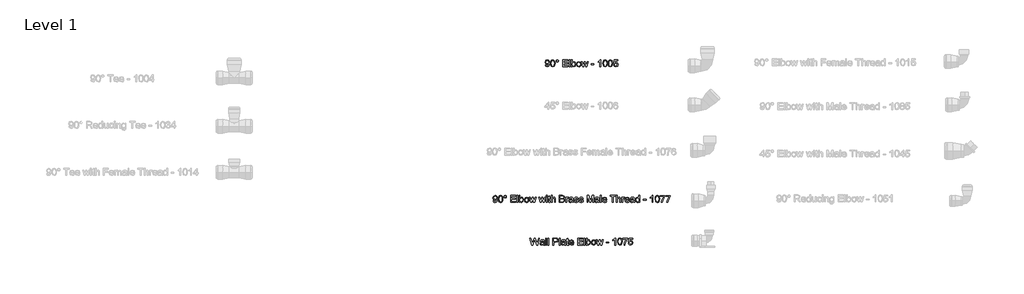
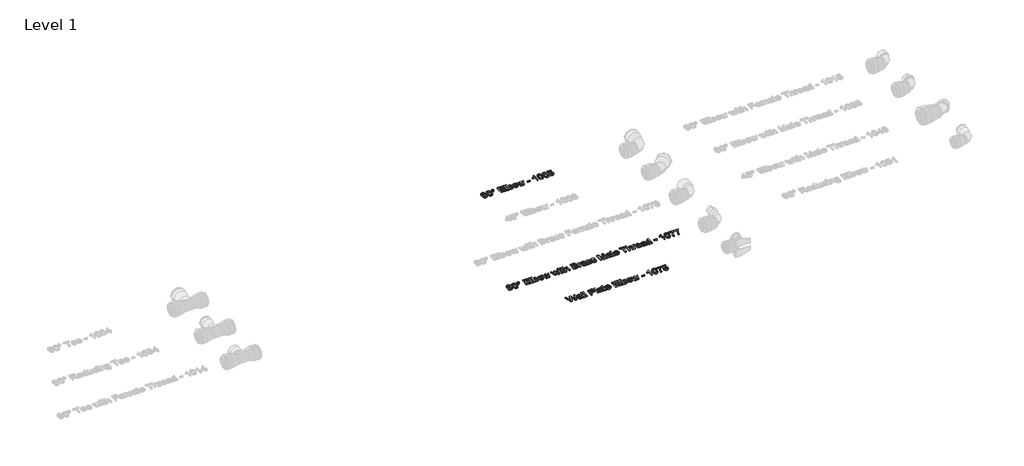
# One storey, part 5 of 13: 3 proxies.
"""IFC4 building model written with IfcOpenShell, lengths in millimetres."""

from ifc_helpers import new_model, si_unit, origin, origin_with_axes, place, context, project, spatial, polyline, outline, extrude, element, save

model = new_model("IFC4")

# Units and contexts
model_context = context("Model", 3, world=origin())
ifc_project = project(units=[si_unit("LENGTHUNIT", "METRE", prefix="MILLI")], contexts=[model_context])

# Site, building, storey
site = spatial("IfcSite", under=ifc_project)
building = spatial("IfcBuilding", under=site)
storey = spatial("IfcBuildingStorey", under=building, Name="Level 1", Elevation=0.0)

# Proxies
placement = place(None, origin())
element("IfcBuildingElementProxy", 1, Name="30 mm Arial", ObjectType="30 mm Arial", at=placement, inside=storey, context=model_context, shape_type="SweptSolid", body=[
    extrude(outline(polyline([(11959.0270244, 4338.3487189), (11962.7193321, 4338.8102573), (11964.377986, 4335.2874208), (11967.5222167, 4334.1948727), (11970.5113994, 4334.8979977), (11972.5378417, 4336.7766035), (11973.7457744, 4339.9857381), (11974.2794283, 4344.269392), (11971.3046686, 4342.1924689), (11967.2553898, 4341.1179496), (11961.0859186, 4343.7429496), (11958.565486, 4350.658815), (11961.2085148, 4357.7982381), (11967.8323129, 4360.502565), (11973.0931302, 4358.9592958), (11976.7133225, 4354.5602573), (11977.9501013, 4346.2958343), (11976.7169283, 4337.3282862), (11973.049861, 4332.2477573), (11967.3491398, 4330.502565), (11961.673659, 4332.5614593), (11959.0270244, 4338.3487189)]), holes=[polyline([(11974.2577936, 4350.7453535), (11972.6640436, 4355.1732381), (11968.4308706, 4356.8102573), (11963.9885629, 4355.0470362), (11962.2577936, 4350.4785266), (11963.8948129, 4346.3859785), (11968.329909, 4344.8102573), (11972.5883225, 4346.3859785), (11974.2577936, 4350.7453535)])]), origin_with_axes(), (0.0, 0.0, 1.0), 5.0),
    extrude(outline(polyline([(11981.1808706, 4345.4953535), (11982.2662071, 4353.9941516), (11985.4897648, 4358.894392), (11990.8731783, 4360.502565), (11995.1856783, 4359.550642), (11998.1640436, 4356.8066516), (11999.8948129, 4352.4364593), (12000.565486, 4345.4953535), (11999.4909667, 4337.0326131), (11996.2782263, 4332.1215554), (11990.8731783, 4330.502565), (11984.1231783, 4333.315065), (11981.1808706, 4345.4953535)]), holes=[polyline([(11984.8731783, 4345.502565), (11986.6039475, 4336.3330939), (11990.8731783, 4334.1948727), (11995.142409, 4336.3403054), (11996.8731783, 4345.502565), (11995.2001013, 4354.5674689), (11990.829909, 4356.8102573), (11986.6616398, 4354.8342958), (11984.8731783, 4345.502565)])]), origin_with_axes(), (0.0, 0.0, 1.0), 5.0),
    extrude(outline(polyline([(12004.7193321, 4355.4328535), (12006.345534, 4359.3487189), (12010.2505821, 4360.9641035), (12014.1808706, 4359.3487189), (12015.7962552, 4355.4328535), (12014.1700533, 4351.5133823), (12010.2505821, 4349.8871804), (12006.345534, 4351.502565), (12004.7193321, 4355.4328535)]), holes=[polyline([(12007.0270244, 4355.425642), (12007.9753417, 4353.1395843), (12010.2650052, 4352.1948727), (12012.5402456, 4353.1395843), (12013.4885629, 4355.425642), (12012.5402456, 4357.7116996), (12010.2650052, 4358.6564112), (12007.9753417, 4357.7116996), (12007.0270244, 4355.425642)])]), origin_with_axes(), (0.0, 0.0, 1.0), 5.0),
    extrude(outline(polyline([(12033.3347167, 4330.9641035), (12033.3347167, 4360.502565), (12054.565486, 4360.502565), (12054.565486, 4356.8102573), (12037.0270244, 4356.8102573), (12037.0270244, 4348.0410266), (12053.642409, 4348.0410266), (12053.642409, 4344.3487189), (12037.0270244, 4344.3487189), (12037.0270244, 4334.6564112), (12055.0270244, 4334.6564112), (12055.0270244, 4330.9641035), (12033.3347167, 4330.9641035)])), origin_with_axes(), (0.0, 0.0, 1.0), 5.0),
    extrude(outline(polyline([(12060.1039475, 4330.9641035), (12060.1039475, 4360.502565), (12063.7962552, 4360.502565), (12063.7962552, 4330.9641035), (12060.1039475, 4330.9641035)])), origin_with_axes(), (0.0, 0.0, 1.0), 5.0),
    extrude(outline(polyline([(12073.0270244, 4330.9641035), (12069.3347167, 4330.9641035), (12069.3347167, 4360.502565), (12073.0270244, 4360.502565), (12073.0270244, 4349.5482381), (12078.8251013, 4353.1179496), (12082.5246206, 4352.3138631), (12085.3948129, 4350.0530458), (12087.158034, 4346.5374208), (12087.7962552, 4342.1347766), (12085.1532263, 4333.5386227), (12078.8034667, 4330.502565), (12073.0270244, 4334.4184304), (12073.0270244, 4330.9641035)]), holes=[polyline([(12073.0270244, 4341.9616996), (12074.0366398, 4336.7982381), (12078.486159, 4334.1948727), (12082.4380821, 4336.113142), (12084.1039475, 4341.831892), (12082.5065917, 4347.5722766), (12078.6448129, 4349.425642), (12074.6928898, 4347.5073727), (12073.0270244, 4341.9616996)])]), origin_with_axes(), (0.0, 0.0, 1.0), 5.0),
    extrude(outline(polyline([(12091.0270244, 4341.8102573), (12094.221736, 4350.7165073), (12100.7265436, 4353.1179496), (12107.7037071, 4350.1936708), (12110.4116398, 4342.113142), (12109.2145244, 4335.5434304), (12105.7277456, 4331.8258823), (12100.7265436, 4330.502565), (12093.706111, 4333.4160266), (12091.0270244, 4341.8102573)]), holes=[polyline([(12094.7193321, 4341.8174689), (12096.4284667, 4336.0951131), (12100.7265436, 4334.1948727), (12105.0101975, 4336.1059304), (12106.7193321, 4341.9328535), (12104.9993802, 4347.5254016), (12100.7265436, 4349.425642), (12096.4284667, 4347.5326131), (12094.7193321, 4341.8174689)])]), origin_with_axes(), (0.0, 0.0, 1.0), 5.0),
    extrude(outline(polyline([(12118.1640436, 4330.9641035), (12111.565486, 4352.6564112), (12115.4020244, 4352.6564112), (12119.1448129, 4340.0001612), (12120.2626013, 4335.4785266), (12121.1784667, 4339.8342958), (12124.1568321, 4352.6564112), (12128.5558706, 4352.6564112), (12131.5198129, 4339.8703535), (12132.3347167, 4335.925642), (12133.502986, 4340.0866996), (12137.252986, 4352.6564112), (12141.1039475, 4352.6564112), (12134.454909, 4330.9641035), (12129.9909667, 4330.9641035), (12127.1568321, 4343.6852573), (12126.3347167, 4347.6516035), (12122.6784667, 4330.9641035), (12118.1640436, 4330.9641035)])), origin_with_axes(), (0.0, 0.0, 1.0), 5.0),
    extrude(outline(polyline([(12158.7794283, 4330.9641035), (12152.1808706, 4352.6564112), (12156.017409, 4352.6564112), (12159.7601975, 4340.0001612), (12160.877986, 4335.4785266), (12161.7938513, 4339.8342958), (12164.7722167, 4352.6564112), (12169.1712552, 4352.6564112), (12172.1351975, 4339.8703535), (12172.9501013, 4335.925642), (12174.1183706, 4340.0866996), (12177.8683706, 4352.6564112), (12181.7193321, 4352.6564112), (12175.0702936, 4330.9641035), (12170.6063513, 4330.9641035), (12167.7722167, 4343.6852573), (12166.9501013, 4347.6516035), (12163.2938513, 4330.9641035), (12158.7794283, 4330.9641035)])), origin_with_axes(), (0.0, 0.0, 1.0), 5.0),
    extrude(outline(polyline([(12184.2577936, 4356.8102573), (12184.2577936, 4360.502565), (12187.9501013, 4360.502565), (12187.9501013, 4356.8102573), (12184.2577936, 4356.8102573)])), origin_with_axes(), (0.0, 0.0, 1.0), 5.0),
    extrude(outline(polyline([(12184.2577936, 4330.9641035), (12184.2577936, 4352.6564112), (12187.9501013, 4352.6564112), (12187.9501013, 4330.9641035), (12184.2577936, 4330.9641035)])), origin_with_axes(), (0.0, 0.0, 1.0), 5.0),
    extrude(outline(polyline([(12201.3347167, 4334.0434304), (12201.7962552, 4330.8559304), (12199.034236, 4330.502565), (12195.940486, 4331.1155458), (12194.3972167, 4332.7237189), (12193.9501013, 4336.9136227), (12193.9501013, 4348.9641035), (12191.1808706, 4348.9641035), (12191.1808706, 4352.6564112), (12193.9501013, 4352.6564112), (12193.9501013, 4357.9280458), (12197.642409, 4360.0987189), (12197.642409, 4352.6564112), (12201.3347167, 4352.6564112), (12201.3347167, 4348.9641035), (12197.642409, 4348.9641035), (12197.642409, 4337.0217958), (12197.8371206, 4335.1179496), (12201.3347167, 4334.0434304)])), origin_with_axes(), (0.0, 0.0, 1.0), 5.0),
    extrude(outline(polyline([(12205.0270244, 4330.9641035), (12205.0270244, 4360.502565), (12208.7193321, 4360.502565), (12208.7193321, 4349.6419881), (12215.1448129, 4353.1179496), (12219.2914475, 4352.1696323), (12221.8082744, 4349.5482381), (12222.565486, 4344.6948727), (12222.565486, 4330.9641035), (12218.8731783, 4330.9641035), (12218.8731783, 4344.3126612), (12217.6976975, 4348.206892), (12214.3659667, 4349.425642), (12211.3407263, 4348.6035266), (12209.3214956, 4346.3751612), (12208.7193321, 4342.488142), (12208.7193321, 4330.9641035), (12205.0270244, 4330.9641035)])), origin_with_axes(), (0.0, 0.0, 1.0), 5.0),
    extrude(outline(polyline([(12239.642409, 4330.9641035), (12239.642409, 4360.502565), (12250.9140436, 4360.502565), (12256.4344763, 4359.6335746), (12259.6940917, 4356.9616996), (12260.8731783, 4353.1828535), (12259.8815917, 4349.7321323), (12256.8851975, 4347.1179496), (12260.5234186, 4344.363142), (12261.7962552, 4339.769392), (12260.9272648, 4335.79944), (12258.7746206, 4332.972517), (12255.5618802, 4331.472517), (12250.8275052, 4330.9641035), (12239.642409, 4330.9641035)]), holes=[polyline([(12243.3347167, 4348.502565), (12250.0775052, 4348.502565), (12254.0150052, 4348.8198727), (12256.3839956, 4350.1864593), (12257.1808706, 4352.5915073), (12256.4380821, 4355.0001612), (12254.3106783, 4356.42444), (12249.565486, 4356.8102573), (12243.3347167, 4356.8102573), (12243.3347167, 4348.502565)]), polyline([(12243.3347167, 4334.6564112), (12250.9068321, 4334.6564112), (12253.6472167, 4334.800642), (12255.9657263, 4335.6047285), (12257.501784, 4337.2453535), (12258.1039475, 4339.7333343), (12257.3972167, 4342.6035266), (12255.1075533, 4344.316267), (12250.5462552, 4344.8102573), (12243.3347167, 4344.8102573), (12243.3347167, 4334.6564112)])]), origin_with_axes(), (0.0, 0.0, 1.0), 5.0),
    extrude(outline(polyline([(12266.4116398, 4330.9641035), (12266.4116398, 4352.6564112), (12269.642409, 4352.6564112), (12269.642409, 4349.4472766), (12271.9356783, 4352.4040073), (12274.2433706, 4353.1179496), (12277.9501013, 4351.9785266), (12276.7169283, 4348.6684304), (12274.1207744, 4349.425642), (12272.033034, 4348.6972766), (12270.7025052, 4346.6780458), (12270.1039475, 4342.3655458), (12270.1039475, 4330.9641035), (12266.4116398, 4330.9641035)])), origin_with_axes(), (0.0, 0.0, 1.0), 5.0),
    extrude(outline(polyline([(12294.1039475, 4333.7333343), (12290.5234186, 4331.2309304), (12286.5678898, 4330.502565), (12281.206111, 4332.2549689), (12279.3347167, 4336.7333343), (12280.0414475, 4339.6540073), (12281.8984186, 4341.7741996), (12284.4837552, 4342.9857381), (12287.6784667, 4343.5410266), (12294.0823129, 4344.8102573), (12293.0871206, 4348.3583343), (12289.0053898, 4349.425642), (12285.2698129, 4348.7153054), (12283.4885629, 4346.1948727), (12279.7962552, 4346.6564112), (12281.393611, 4350.2621804), (12284.6099571, 4352.3751612), (12289.4813513, 4353.1179496), (12293.956111, 4352.4616996), (12296.4837552, 4350.8138631), (12297.6159667, 4348.3078535), (12297.7962552, 4345.0770843), (12297.7962552, 4340.4833343), (12297.9837552, 4334.0686708), (12298.7193321, 4330.9641035), (12295.0270244, 4330.9641035), (12294.1039475, 4333.7333343)]), holes=[polyline([(12294.0931302, 4340.5951131), (12288.1472167, 4339.9857381), (12284.970534, 4339.3871804), (12283.5318321, 4338.4136227), (12284.126784, 4334.9953535), (12287.3539475, 4334.1948727), (12291.0895244, 4335.0782862), (12293.4981783, 4337.2165073), (12294.0931302, 4340.5951131)])]), origin_with_axes(), (0.0, 0.0, 1.0), 5.0),
    extrude(outline(polyline([(12301.4885629, 4337.425642), (12305.1808706, 4337.8871804), (12306.8900052, 4335.1467958), (12310.8058706, 4334.1948727), (12314.5702936, 4335.0674689), (12315.7962552, 4337.1155458), (12314.5630821, 4338.7741996), (12310.7626013, 4339.8270843), (12305.2025052, 4341.6335746), (12302.7758225, 4343.7429496), (12301.9501013, 4346.721315), (12302.6135629, 4349.472517), (12304.423659, 4351.5746804), (12306.7710148, 4352.6672285), (12309.9476975, 4353.1179496), (12314.440486, 4352.39319), (12317.2962552, 4350.4316516), (12318.565486, 4347.1179496), (12314.8731783, 4346.6564112), (12313.4849571, 4348.6936708), (12310.236159, 4349.425642), (12306.7025052, 4348.7261227), (12305.642409, 4347.096315), (12307.4597167, 4345.206892), (12310.6400052, 4344.4208343), (12316.0594763, 4342.6828535), (12318.5763033, 4340.7141035), (12319.4885629, 4337.5049689), (12318.4176494, 4333.971315), (12315.3275052, 4331.4076131), (12310.7553898, 4330.502565), (12304.315486, 4332.2477573), (12301.4885629, 4337.425642)])), origin_with_axes(), (0.0, 0.0, 1.0), 5.0),
    extrude(outline(polyline([(12322.2577936, 4337.425642), (12325.9501013, 4337.8871804), (12327.659236, 4335.1467958), (12331.5751013, 4334.1948727), (12335.3395244, 4335.0674689), (12336.565486, 4337.1155458), (12335.3323129, 4338.7741996), (12331.5318321, 4339.8270843), (12325.971736, 4341.6335746), (12323.5450533, 4343.7429496), (12322.7193321, 4346.721315), (12323.3827936, 4349.472517), (12325.1928898, 4351.5746804), (12327.5402456, 4352.6672285), (12330.7169283, 4353.1179496), (12335.2097167, 4352.39319), (12338.065486, 4350.4316516), (12339.3347167, 4347.1179496), (12335.642409, 4346.6564112), (12334.2541879, 4348.6936708), (12331.0053898, 4349.425642), (12327.471736, 4348.7261227), (12326.4116398, 4347.096315), (12328.2289475, 4345.206892), (12331.409236, 4344.4208343), (12336.8287071, 4342.6828535), (12339.345534, 4340.7141035), (12340.2577936, 4337.5049689), (12339.1868802, 4333.971315), (12336.096736, 4331.4076131), (12331.5246206, 4330.502565), (12325.0847167, 4332.2477573), (12322.2577936, 4337.425642)])), origin_with_axes(), (0.0, 0.0, 1.0), 5.0),
    extrude(outline(polyline([(12356.4116398, 4330.9641035), (12356.4116398, 4360.502565), (12362.7650052, 4360.502565), (12368.8082744, 4339.6828535), (12370.0270244, 4335.3342958), (12371.346736, 4340.0434304), (12377.2890436, 4360.502565), (12383.642409, 4360.502565), (12383.642409, 4330.9641035), (12379.9501013, 4330.9641035), (12379.9501013, 4356.8102573), (12372.5294283, 4330.9641035), (12367.5246206, 4330.9641035), (12360.1039475, 4356.8102573), (12360.1039475, 4330.9641035), (12356.4116398, 4330.9641035)])), origin_with_axes(), (0.0, 0.0, 1.0), 5.0),
    extrude(outline(polyline([(12403.4885629, 4333.7333343), (12399.908034, 4331.2309304), (12395.9525052, 4330.502565), (12390.5907263, 4332.2549689), (12388.7193321, 4336.7333343), (12389.4260629, 4339.6540073), (12391.283034, 4341.7741996), (12393.8683706, 4342.9857381), (12397.0630821, 4343.5410266), (12403.4669283, 4344.8102573), (12402.471736, 4348.3583343), (12398.3900052, 4349.425642), (12394.6544283, 4348.7153054), (12392.8731783, 4346.1948727), (12389.1808706, 4346.6564112), (12390.7782263, 4350.2621804), (12393.9945725, 4352.3751612), (12398.8659667, 4353.1179496), (12403.3407263, 4352.4616996), (12405.8683706, 4350.8138631), (12407.0005821, 4348.3078535), (12407.1808706, 4345.0770843), (12407.1808706, 4340.4833343), (12407.3683706, 4334.0686708), (12408.1039475, 4330.9641035), (12404.4116398, 4330.9641035), (12403.4885629, 4333.7333343)]), holes=[polyline([(12403.4777456, 4340.5951131), (12397.5318321, 4339.9857381), (12394.3551494, 4339.3871804), (12392.9164475, 4338.4136227), (12393.5113994, 4334.9953535), (12396.7385629, 4334.1948727), (12400.4741398, 4335.0782862), (12402.8827936, 4337.2165073), (12403.4777456, 4340.5951131)])]), origin_with_axes(), (0.0, 0.0, 1.0), 5.0),
    extrude(outline(polyline([(12412.2577936, 4330.9641035), (12412.2577936, 4360.502565), (12415.9501013, 4360.502565), (12415.9501013, 4330.9641035), (12412.2577936, 4330.9641035)])), origin_with_axes(), (0.0, 0.0, 1.0), 5.0),
    extrude(outline(polyline([(12436.6760629, 4337.425642), (12440.2962552, 4336.9641035), (12436.9104379, 4332.1972766), (12430.6039475, 4330.502565), (12422.9380821, 4333.4268439), (12420.1039475, 4341.6299689), (12422.9669283, 4350.1035266), (12430.3948129, 4353.1179496), (12437.6099571, 4350.1107381), (12440.4116398, 4341.6516035), (12423.7962552, 4340.6564112), (12425.9200533, 4335.8607381), (12430.6760629, 4334.1948727), (12434.2962552, 4334.9665073), (12436.6760629, 4337.425642)]), holes=[polyline([(12423.7962552, 4344.3487189), (12436.7193321, 4344.3487189), (12435.2409667, 4347.6948727), (12430.3803898, 4349.425642), (12425.8335148, 4348.0446323), (12423.7962552, 4344.3487189)])]), origin_with_axes(), (0.0, 0.0, 1.0), 5.0),
    extrude(outline(polyline([(12463.4885629, 4330.9641035), (12463.4885629, 4356.8102573), (12453.7962552, 4356.8102573), (12453.7962552, 4360.502565), (12476.8731783, 4360.502565), (12476.8731783, 4356.8102573), (12467.1808706, 4356.8102573), (12467.1808706, 4330.9641035), (12463.4885629, 4330.9641035)])), origin_with_axes(), (0.0, 0.0, 1.0), 5.0),
    extrude(outline(polyline([(12480.565486, 4330.9641035), (12480.565486, 4360.502565), (12484.2577936, 4360.502565), (12484.2577936, 4349.6419881), (12490.6832744, 4353.1179496), (12494.829909, 4352.1696323), (12497.346736, 4349.5482381), (12498.1039475, 4344.6948727), (12498.1039475, 4330.9641035), (12494.4116398, 4330.9641035), (12494.4116398, 4344.3126612), (12493.236159, 4348.206892), (12489.9044283, 4349.425642), (12486.8791879, 4348.6035266), (12484.8599571, 4346.3751612), (12484.2577936, 4342.488142), (12484.2577936, 4330.9641035), (12480.565486, 4330.9641035)])), origin_with_axes(), (0.0, 0.0, 1.0), 5.0),
    extrude(outline(polyline([(12503.1808706, 4330.9641035), (12503.1808706, 4352.6564112), (12506.4116398, 4352.6564112), (12506.4116398, 4349.4472766), (12508.704909, 4352.4040073), (12511.0126013, 4353.1179496), (12514.7193321, 4351.9785266), (12513.486159, 4348.6684304), (12510.8900052, 4349.425642), (12508.8022648, 4348.6972766), (12507.471736, 4346.6780458), (12506.8731783, 4342.3655458), (12506.8731783, 4330.9641035), (12503.1808706, 4330.9641035)])), origin_with_axes(), (0.0, 0.0, 1.0), 5.0),
    extrude(outline(polyline([(12532.2145244, 4337.425642), (12535.8347167, 4336.9641035), (12532.4488994, 4332.1972766), (12526.142409, 4330.502565), (12518.4765436, 4333.4268439), (12515.642409, 4341.6299689), (12518.5053898, 4350.1035266), (12525.9332744, 4353.1179496), (12533.1484186, 4350.1107381), (12535.9501013, 4341.6516035), (12519.3347167, 4340.6564112), (12521.4585148, 4335.8607381), (12526.2145244, 4334.1948727), (12529.8347167, 4334.9665073), (12532.2145244, 4337.425642)]), holes=[polyline([(12519.3347167, 4344.3487189), (12532.2577936, 4344.3487189), (12530.7794283, 4347.6948727), (12525.9188513, 4349.425642), (12521.3719763, 4348.0446323), (12519.3347167, 4344.3487189)])]), origin_with_axes(), (0.0, 0.0, 1.0), 5.0),
    extrude(outline(polyline([(12553.4885629, 4333.7333343), (12549.908034, 4331.2309304), (12545.9525052, 4330.502565), (12540.5907263, 4332.2549689), (12538.7193321, 4336.7333343), (12539.4260629, 4339.6540073), (12541.283034, 4341.7741996), (12543.8683706, 4342.9857381), (12547.0630821, 4343.5410266), (12553.4669283, 4344.8102573), (12552.471736, 4348.3583343), (12548.3900052, 4349.425642), (12544.6544283, 4348.7153054), (12542.8731783, 4346.1948727), (12539.1808706, 4346.6564112), (12540.7782263, 4350.2621804), (12543.9945725, 4352.3751612), (12548.8659667, 4353.1179496), (12553.3407263, 4352.4616996), (12555.8683706, 4350.8138631), (12557.0005821, 4348.3078535), (12557.1808706, 4345.0770843), (12557.1808706, 4340.4833343), (12557.3683706, 4334.0686708), (12558.1039475, 4330.9641035), (12554.4116398, 4330.9641035), (12553.4885629, 4333.7333343)]), holes=[polyline([(12553.4777456, 4340.5951131), (12547.5318321, 4339.9857381), (12544.3551494, 4339.3871804), (12542.9164475, 4338.4136227), (12543.5113994, 4334.9953535), (12546.7385629, 4334.1948727), (12550.4741398, 4335.0782862), (12552.8827936, 4337.2165073), (12553.4777456, 4340.5951131)])]), origin_with_axes(), (0.0, 0.0, 1.0), 5.0),
    extrude(outline(polyline([(12575.642409, 4330.9641035), (12575.642409, 4334.4472766), (12569.8226975, 4330.502565), (12565.2505821, 4331.9304496), (12562.0198129, 4335.9148246), (12560.8731783, 4341.7886227), (12561.9296686, 4347.6660266), (12565.095534, 4351.7116996), (12569.8082744, 4353.1179496), (12573.2121206, 4352.11194), (12575.642409, 4349.4977573), (12575.642409, 4360.502565), (12579.3347167, 4360.502565), (12579.3347167, 4330.9641035), (12575.642409, 4330.9641035)]), holes=[polyline([(12564.565486, 4341.8030458), (12566.2313513, 4336.0879016), (12570.1616398, 4334.1948727), (12574.0450533, 4336.0013631), (12575.642409, 4341.5217958), (12574.0162071, 4347.5145843), (12570.0101975, 4349.425642), (12566.1231783, 4347.5903054), (12564.565486, 4341.8030458)])]), origin_with_axes(), (0.0, 0.0, 1.0), 5.0),
    extrude(outline(polyline([(12594.565486, 4339.7333343), (12594.565486, 4343.425642), (12606.1039475, 4343.425642), (12606.1039475, 4339.7333343), (12594.565486, 4339.7333343)])), origin_with_axes(), (0.0, 0.0, 1.0), 5.0),
    extrude(outline(polyline([(12634.7193321, 4330.9641035), (12631.0270244, 4330.9641035), (12631.0270244, 4353.9833343), (12627.5294283, 4351.4917477), (12623.642409, 4349.627565), (12623.642409, 4353.1179496), (12629.0546686, 4356.5722766), (12632.3395244, 4360.502565), (12634.7193321, 4360.502565), (12634.7193321, 4330.9641035)])), origin_with_axes(), (0.0, 0.0, 1.0), 5.0),
    extrude(outline(polyline([(12643.4885629, 4345.4953535), (12644.5738994, 4353.9941516), (12647.7974571, 4358.894392), (12653.1808706, 4360.502565), (12657.4933706, 4359.550642), (12660.471736, 4356.8066516), (12662.2025052, 4352.4364593), (12662.8731783, 4345.4953535), (12661.798659, 4337.0326131), (12658.5859186, 4332.1215554), (12653.1808706, 4330.502565), (12646.4308706, 4333.315065), (12643.4885629, 4345.4953535)]), holes=[polyline([(12647.1808706, 4345.502565), (12648.9116398, 4336.3330939), (12653.1808706, 4334.1948727), (12657.4501013, 4336.3403054), (12659.1808706, 4345.502565), (12657.5077936, 4354.5674689), (12653.1376013, 4356.8102573), (12648.9693321, 4354.8342958), (12647.1808706, 4345.502565)])]), origin_with_axes(), (0.0, 0.0, 1.0), 5.0),
    extrude(outline(polyline([(12666.1039475, 4356.3487189), (12666.1039475, 4360.0410266), (12685.4885629, 4360.0410266), (12685.4885629, 4357.0554496), (12679.9897648, 4349.11194), (12675.7818321, 4338.9905458), (12674.4116398, 4330.9641035), (12670.7193321, 4330.9641035), (12672.1868802, 4339.2934304), (12676.2145244, 4348.7080939), (12681.7962552, 4356.3487189), (12666.1039475, 4356.3487189)])), origin_with_axes(), (0.0, 0.0, 1.0), 5.0),
    extrude(outline(polyline([(12688.7193321, 4356.3487189), (12688.7193321, 4360.0410266), (12708.1039475, 4360.0410266), (12708.1039475, 4357.0554496), (12702.6051494, 4349.11194), (12698.3972167, 4338.9905458), (12697.0270244, 4330.9641035), (12693.3347167, 4330.9641035), (12694.8022648, 4339.2934304), (12698.829909, 4348.7080939), (12704.4116398, 4356.3487189), (12688.7193321, 4356.3487189)])), origin_with_axes(), (0.0, 0.0, 1.0), 5.0),
])
element("IfcBuildingElementProxy", 2, Name="30 mm Arial", ObjectType="30 mm Arial", at=placement, inside=storey, context=model_context, shape_type="SweptSolid", body=[
    extrude(outline(polyline([(12179.642409, 4911.4453726), (12183.3347167, 4911.906911), (12184.9933706, 4908.3840745), (12188.1376013, 4907.2915264), (12191.126784, 4907.9946514), (12193.1532263, 4909.8732572), (12194.361159, 4913.0823918), (12194.8948129, 4917.3660456), (12191.9200533, 4915.2891226), (12187.8707744, 4914.2146033), (12181.7013033, 4916.8396033), (12179.1808706, 4923.7554687), (12181.8238994, 4930.8948918), (12188.4476975, 4933.5992187), (12193.7085148, 4932.0559495), (12197.3287071, 4927.656911), (12198.565486, 4919.3924879), (12197.3323129, 4910.4249399), (12193.6652456, 4905.344411), (12187.9645244, 4903.5992187), (12182.2890436, 4905.6581129), (12179.642409, 4911.4453726)]), holes=[polyline([(12194.8731783, 4923.8420072), (12193.2794283, 4928.2698918), (12189.0462552, 4929.906911), (12184.6039475, 4928.1436899), (12182.8731783, 4923.5751802), (12184.5101975, 4919.4826322), (12188.9452936, 4917.906911), (12193.2037071, 4919.4826322), (12194.8731783, 4923.8420072)])]), origin_with_axes(), (0.0, 0.0, 1.0), 5.0),
    extrude(outline(polyline([(12201.7962552, 4918.5920072), (12202.8815917, 4927.0908052), (12206.1051494, 4931.9910456), (12211.4885629, 4933.5992187), (12215.8010629, 4932.6472956), (12218.7794283, 4929.9033052), (12220.5101975, 4925.5331129), (12221.1808706, 4918.5920072), (12220.1063513, 4910.1292668), (12216.893611, 4905.2182091), (12211.4885629, 4903.5992187), (12204.7385629, 4906.4117187), (12201.7962552, 4918.5920072)]), holes=[polyline([(12205.4885629, 4918.5992187), (12207.2193321, 4909.4297476), (12211.4885629, 4907.2915264), (12215.7577936, 4909.4369591), (12217.4885629, 4918.5992187), (12215.815486, 4927.6641226), (12211.4452936, 4929.906911), (12207.2770244, 4927.9309495), (12205.4885629, 4918.5992187)])]), origin_with_axes(), (0.0, 0.0, 1.0), 5.0),
    extrude(outline(polyline([(12225.3347167, 4928.5295072), (12226.9609186, 4932.4453726), (12230.8659667, 4934.0607572), (12234.7962552, 4932.4453726), (12236.4116398, 4928.5295072), (12234.7854379, 4924.610036), (12230.8659667, 4922.9838341), (12226.9609186, 4924.5992187), (12225.3347167, 4928.5295072)]), holes=[polyline([(12227.642409, 4928.5222956), (12228.5907263, 4926.2362379), (12230.8803898, 4925.2915264), (12233.1556302, 4926.2362379), (12234.1039475, 4928.5222956), (12233.1556302, 4930.8083533), (12230.8803898, 4931.7530649), (12228.5907263, 4930.8083533), (12227.642409, 4928.5222956)])]), origin_with_axes(), (0.0, 0.0, 1.0), 5.0),
    extrude(outline(polyline([(12253.9501013, 4904.0607572), (12253.9501013, 4933.5992187), (12275.1808706, 4933.5992187), (12275.1808706, 4929.906911), (12257.642409, 4929.906911), (12257.642409, 4921.1376802), (12274.2577936, 4921.1376802), (12274.2577936, 4917.4453726), (12257.642409, 4917.4453726), (12257.642409, 4907.7530649), (12275.642409, 4907.7530649), (12275.642409, 4904.0607572), (12253.9501013, 4904.0607572)])), origin_with_axes(), (0.0, 0.0, 1.0), 5.0),
    extrude(outline(polyline([(12280.7193321, 4904.0607572), (12280.7193321, 4933.5992187), (12284.4116398, 4933.5992187), (12284.4116398, 4904.0607572), (12280.7193321, 4904.0607572)])), origin_with_axes(), (0.0, 0.0, 1.0), 5.0),
    extrude(outline(polyline([(12293.642409, 4904.0607572), (12289.9501013, 4904.0607572), (12289.9501013, 4933.5992187), (12293.642409, 4933.5992187), (12293.642409, 4922.6448918), (12299.440486, 4926.2146033), (12303.1400052, 4925.4105168), (12306.0101975, 4923.1496995), (12307.7734186, 4919.6340745), (12308.4116398, 4915.2314302), (12305.768611, 4906.6352764), (12299.4188513, 4903.5992187), (12293.642409, 4907.5150841), (12293.642409, 4904.0607572)]), holes=[polyline([(12293.642409, 4915.0583533), (12294.6520244, 4909.8948918), (12299.1015436, 4907.2915264), (12303.0534667, 4909.2097956), (12304.7193321, 4914.9285456), (12303.1219763, 4920.6689302), (12299.2601975, 4922.5222956), (12295.3082744, 4920.6040264), (12293.642409, 4915.0583533)])]), origin_with_axes(), (0.0, 0.0, 1.0), 5.0),
    extrude(outline(polyline([(12311.642409, 4914.906911), (12314.8371206, 4923.813161), (12321.3419283, 4926.2146033), (12328.3190917, 4923.2903245), (12331.0270244, 4915.2097956), (12329.829909, 4908.6400841), (12326.3431302, 4904.922536), (12321.3419283, 4903.5992187), (12314.3214956, 4906.5126802), (12311.642409, 4914.906911)]), holes=[polyline([(12315.3347167, 4914.9141226), (12317.0438513, 4909.1917668), (12321.3419283, 4907.2915264), (12325.6255821, 4909.2025841), (12327.3347167, 4915.0295072), (12325.6147648, 4920.6220552), (12321.3419283, 4922.5222956), (12317.0438513, 4920.6292668), (12315.3347167, 4914.9141226)])]), origin_with_axes(), (0.0, 0.0, 1.0), 5.0),
    extrude(outline(polyline([(12338.7794283, 4904.0607572), (12332.1808706, 4925.7530649), (12336.017409, 4925.7530649), (12339.7601975, 4913.0968149), (12340.877986, 4908.5751802), (12341.7938513, 4912.9309495), (12344.7722167, 4925.7530649), (12349.1712552, 4925.7530649), (12352.1351975, 4912.9670072), (12352.9501013, 4909.0222956), (12354.1183706, 4913.1833533), (12357.8683706, 4925.7530649), (12361.7193321, 4925.7530649), (12355.0702936, 4904.0607572), (12350.6063513, 4904.0607572), (12347.7722167, 4916.781911), (12346.9501013, 4920.7482572), (12343.2938513, 4904.0607572), (12338.7794283, 4904.0607572)])), origin_with_axes(), (0.0, 0.0, 1.0), 5.0),
    extrude(outline(polyline([(12373.9501013, 4912.8299879), (12373.9501013, 4916.5222956), (12385.4885629, 4916.5222956), (12385.4885629, 4912.8299879), (12373.9501013, 4912.8299879)])), origin_with_axes(), (0.0, 0.0, 1.0), 5.0),
    extrude(outline(polyline([(12414.1039475, 4904.0607572), (12410.4116398, 4904.0607572), (12410.4116398, 4927.0799879), (12406.9140436, 4924.5884014), (12403.0270244, 4922.7242187), (12403.0270244, 4926.2146033), (12408.439284, 4929.6689302), (12411.7241398, 4933.5992187), (12414.1039475, 4933.5992187), (12414.1039475, 4904.0607572)])), origin_with_axes(), (0.0, 0.0, 1.0), 5.0),
    extrude(outline(polyline([(12422.8731783, 4918.5920072), (12423.9585148, 4927.0908052), (12427.1820725, 4931.9910456), (12432.565486, 4933.5992187), (12436.877986, 4932.6472956), (12439.8563513, 4929.9033052), (12441.5871206, 4925.5331129), (12442.2577936, 4918.5920072), (12441.1832744, 4910.1292668), (12437.970534, 4905.2182091), (12432.565486, 4903.5992187), (12425.815486, 4906.4117187), (12422.8731783, 4918.5920072)]), holes=[polyline([(12426.565486, 4918.5992187), (12428.2962552, 4909.4297476), (12432.565486, 4907.2915264), (12436.8347167, 4909.4369591), (12438.565486, 4918.5992187), (12436.892409, 4927.6641226), (12432.5222167, 4929.906911), (12428.3539475, 4927.9309495), (12426.565486, 4918.5992187)])]), origin_with_axes(), (0.0, 0.0, 1.0), 5.0),
    extrude(outline(polyline([(12445.4885629, 4918.5920072), (12446.5738994, 4927.0908052), (12449.7974571, 4931.9910456), (12455.1808706, 4933.5992187), (12459.4933706, 4932.6472956), (12462.471736, 4929.9033052), (12464.2025052, 4925.5331129), (12464.8731783, 4918.5920072), (12463.798659, 4910.1292668), (12460.5859186, 4905.2182091), (12455.1808706, 4903.5992187), (12448.4308706, 4906.4117187), (12445.4885629, 4918.5920072)]), holes=[polyline([(12449.1808706, 4918.5992187), (12450.9116398, 4909.4297476), (12455.1808706, 4907.2915264), (12459.4501013, 4909.4369591), (12461.1808706, 4918.5992187), (12459.5077936, 4927.6641226), (12455.1376013, 4929.906911), (12450.9693321, 4927.9309495), (12449.1808706, 4918.5992187)])]), origin_with_axes(), (0.0, 0.0, 1.0), 5.0),
    extrude(outline(polyline([(12468.1039475, 4911.906911), (12471.7962552, 4912.3684495), (12473.6568321, 4908.5643629), (12477.5150052, 4907.2915264), (12482.1448129, 4909.0619591), (12483.7962552, 4913.7602764), (12482.2493802, 4918.1448918), (12477.5726975, 4919.7530649), (12474.331111, 4919.1112379), (12472.2577936, 4917.4453726), (12468.565486, 4917.906911), (12471.7962552, 4933.1376802), (12486.1039475, 4933.1376802), (12486.1039475, 4929.4453726), (12474.7818321, 4929.4453726), (12473.2025052, 4921.3107572), (12478.6039475, 4923.4453726), (12484.9176494, 4920.7987379), (12487.4885629, 4913.9910456), (12485.173659, 4907.1400841), (12477.5005821, 4903.5992187), (12470.9849571, 4905.8744591), (12468.1039475, 4911.906911)])), origin_with_axes(), (0.0, 0.0, 1.0), 5.0),
])
element("IfcBuildingElementProxy", 3, Name="30 mm Arial", ObjectType="30 mm Arial", at=placement, inside=storey, context=model_context, shape_type="SweptSolid", body=[
    extrude(outline(polyline([(12123.3130821, 4150.9641035), (12115.2577936, 4180.502565), (12119.065486, 4180.502565), (12123.7385629, 4161.0891035), (12125.1808706, 4155.096315), (12126.7241398, 4160.3967958), (12132.579909, 4180.502565), (12138.0678898, 4180.502565), (12142.3226975, 4165.9280458), (12145.4885629, 4155.096315), (12146.8876013, 4160.9160266), (12151.6039475, 4180.502565), (12155.4116398, 4180.502565), (12147.3491398, 4150.9641035), (12143.4044283, 4150.9641035), (12136.3226975, 4173.752565), (12135.3347167, 4176.9328535), (12134.2241398, 4173.1035266), (12127.7698129, 4150.9641035), (12123.3130821, 4150.9641035)])), origin_with_axes(), (0.0, 0.0, 1.0), 5.0),
    extrude(outline(polyline([(12172.4885629, 4153.7333343), (12168.908034, 4151.2309304), (12164.9525052, 4150.502565), (12159.5907263, 4152.2549689), (12157.7193321, 4156.7333343), (12158.4260629, 4159.6540073), (12160.283034, 4161.7741996), (12162.8683706, 4162.9857381), (12166.0630821, 4163.5410266), (12172.4669283, 4164.8102573), (12171.471736, 4168.3583343), (12167.3900052, 4169.425642), (12163.6544283, 4168.7153054), (12161.8731783, 4166.1948727), (12158.1808706, 4166.6564112), (12159.7782263, 4170.2621804), (12162.9945725, 4172.3751612), (12167.8659667, 4173.1179496), (12172.3407263, 4172.4616996), (12174.8683706, 4170.8138631), (12176.0005821, 4168.3078535), (12176.1808706, 4165.0770843), (12176.1808706, 4160.4833343), (12176.3683706, 4154.0686708), (12177.1039475, 4150.9641035), (12173.4116398, 4150.9641035), (12172.4885629, 4153.7333343)]), holes=[polyline([(12172.4777456, 4160.5951131), (12166.5318321, 4159.9857381), (12163.3551494, 4159.3871804), (12161.9164475, 4158.4136227), (12162.5113994, 4154.9953535), (12165.7385629, 4154.1948727), (12169.4741398, 4155.0782862), (12171.8827936, 4157.2165073), (12172.4777456, 4160.5951131)])]), origin_with_axes(), (0.0, 0.0, 1.0), 5.0),
    extrude(outline(polyline([(12181.2577936, 4150.9641035), (12181.2577936, 4180.502565), (12184.9501013, 4180.502565), (12184.9501013, 4150.9641035), (12181.2577936, 4150.9641035)])), origin_with_axes(), (0.0, 0.0, 1.0), 5.0),
    extrude(outline(polyline([(12190.4885629, 4150.9641035), (12190.4885629, 4180.502565), (12194.1808706, 4180.502565), (12194.1808706, 4150.9641035), (12190.4885629, 4150.9641035)])), origin_with_axes(), (0.0, 0.0, 1.0), 5.0),
    extrude(outline(polyline([(12211.7193321, 4150.9641035), (12211.7193321, 4180.502565), (12222.6664475, 4180.502565), (12227.079909, 4180.221315), (12230.6676494, 4178.8403054), (12232.9933706, 4175.9845362), (12233.8731783, 4171.956892), (12231.4969763, 4165.5746804), (12222.9188513, 4162.9641035), (12215.4116398, 4162.9641035), (12215.4116398, 4150.9641035), (12211.7193321, 4150.9641035)]), holes=[polyline([(12215.4116398, 4166.6564112), (12223.1351975, 4166.6564112), (12228.5726975, 4168.0121804), (12230.1808706, 4171.8270843), (12229.2325533, 4174.8847766), (12226.7409667, 4176.5578535), (12223.048659, 4176.8102573), (12215.4116398, 4176.8102573), (12215.4116398, 4166.6564112)])]), origin_with_axes(), (0.0, 0.0, 1.0), 5.0),
    extrude(outline(polyline([(12238.4885629, 4150.9641035), (12238.4885629, 4180.502565), (12242.1808706, 4180.502565), (12242.1808706, 4150.9641035), (12238.4885629, 4150.9641035)])), origin_with_axes(), (0.0, 0.0, 1.0), 5.0),
    extrude(outline(polyline([(12261.565486, 4153.7333343), (12257.9849571, 4151.2309304), (12254.0294283, 4150.502565), (12248.6676494, 4152.2549689), (12246.7962552, 4156.7333343), (12247.502986, 4159.6540073), (12249.3599571, 4161.7741996), (12251.9452936, 4162.9857381), (12255.1400052, 4163.5410266), (12261.5438513, 4164.8102573), (12260.548659, 4168.3583343), (12256.4669283, 4169.425642), (12252.7313513, 4168.7153054), (12250.9501013, 4166.1948727), (12247.2577936, 4166.6564112), (12248.8551494, 4170.2621804), (12252.0714956, 4172.3751612), (12256.9428898, 4173.1179496), (12261.4176494, 4172.4616996), (12263.9452936, 4170.8138631), (12265.0775052, 4168.3078535), (12265.2577936, 4165.0770843), (12265.2577936, 4160.4833343), (12265.4452936, 4154.0686708), (12266.1808706, 4150.9641035), (12262.4885629, 4150.9641035), (12261.565486, 4153.7333343)]), holes=[polyline([(12261.5546686, 4160.5951131), (12255.6087552, 4159.9857381), (12252.4320725, 4159.3871804), (12250.9933706, 4158.4136227), (12251.5883225, 4154.9953535), (12254.815486, 4154.1948727), (12258.5510629, 4155.0782862), (12260.9597167, 4157.2165073), (12261.5546686, 4160.5951131)])]), origin_with_axes(), (0.0, 0.0, 1.0), 5.0),
    extrude(outline(polyline([(12278.1808706, 4154.0434304), (12278.642409, 4150.8559304), (12275.8803898, 4150.502565), (12272.7866398, 4151.1155458), (12271.2433706, 4152.7237189), (12270.7962552, 4156.9136227), (12270.7962552, 4168.9641035), (12268.0270244, 4168.9641035), (12268.0270244, 4172.6564112), (12270.7962552, 4172.6564112), (12270.7962552, 4177.9280458), (12274.4885629, 4180.0987189), (12274.4885629, 4172.6564112), (12278.1808706, 4172.6564112), (12278.1808706, 4168.9641035), (12274.4885629, 4168.9641035), (12274.4885629, 4157.0217958), (12274.6832744, 4155.1179496), (12278.1808706, 4154.0434304)])), origin_with_axes(), (0.0, 0.0, 1.0), 5.0),
    extrude(outline(polyline([(12297.0606783, 4157.425642), (12300.6808706, 4156.9641035), (12297.2950533, 4152.1972766), (12290.9885629, 4150.502565), (12283.3226975, 4153.4268439), (12280.4885629, 4161.6299689), (12283.3515436, 4170.1035266), (12290.7794283, 4173.1179496), (12297.9945725, 4170.1107381), (12300.7962552, 4161.6516035), (12284.1808706, 4160.6564112), (12286.3046686, 4155.8607381), (12291.0606783, 4154.1948727), (12294.6808706, 4154.9665073), (12297.0606783, 4157.425642)]), holes=[polyline([(12284.1808706, 4164.3487189), (12297.1039475, 4164.3487189), (12295.6255821, 4167.6948727), (12290.7650052, 4169.425642), (12286.2181302, 4168.0446323), (12284.1808706, 4164.3487189)])]), origin_with_axes(), (0.0, 0.0, 1.0), 5.0),
    extrude(outline(polyline([(12316.4885629, 4150.9641035), (12316.4885629, 4180.502565), (12337.7193321, 4180.502565), (12337.7193321, 4176.8102573), (12320.1808706, 4176.8102573), (12320.1808706, 4168.0410266), (12336.7962552, 4168.0410266), (12336.7962552, 4164.3487189), (12320.1808706, 4164.3487189), (12320.1808706, 4154.6564112), (12338.1808706, 4154.6564112), (12338.1808706, 4150.9641035), (12316.4885629, 4150.9641035)])), origin_with_axes(), (0.0, 0.0, 1.0), 5.0),
    extrude(outline(polyline([(12343.2577936, 4150.9641035), (12343.2577936, 4180.502565), (12346.9501013, 4180.502565), (12346.9501013, 4150.9641035), (12343.2577936, 4150.9641035)])), origin_with_axes(), (0.0, 0.0, 1.0), 5.0),
    extrude(outline(polyline([(12356.1808706, 4150.9641035), (12352.4885629, 4150.9641035), (12352.4885629, 4180.502565), (12356.1808706, 4180.502565), (12356.1808706, 4169.5482381), (12361.9789475, 4173.1179496), (12365.6784667, 4172.3138631), (12368.548659, 4170.0530458), (12370.3118802, 4166.5374208), (12370.9501013, 4162.1347766), (12368.3070725, 4153.5386227), (12361.9573129, 4150.502565), (12356.1808706, 4154.4184304), (12356.1808706, 4150.9641035)]), holes=[polyline([(12356.1808706, 4161.9616996), (12357.190486, 4156.7982381), (12361.6400052, 4154.1948727), (12365.5919283, 4156.113142), (12367.2577936, 4161.831892), (12365.6604379, 4167.5722766), (12361.798659, 4169.425642), (12357.846736, 4167.5073727), (12356.1808706, 4161.9616996)])]), origin_with_axes(), (0.0, 0.0, 1.0), 5.0),
    extrude(outline(polyline([(12374.1808706, 4161.8102573), (12377.3755821, 4170.7165073), (12383.8803898, 4173.1179496), (12390.8575533, 4170.1936708), (12393.565486, 4162.113142), (12392.3683706, 4155.5434304), (12388.8815917, 4151.8258823), (12383.8803898, 4150.502565), (12376.8599571, 4153.4160266), (12374.1808706, 4161.8102573)]), holes=[polyline([(12377.8731783, 4161.8174689), (12379.5823129, 4156.0951131), (12383.8803898, 4154.1948727), (12388.1640436, 4156.1059304), (12389.8731783, 4161.9328535), (12388.1532263, 4167.5254016), (12383.8803898, 4169.425642), (12379.5823129, 4167.5326131), (12377.8731783, 4161.8174689)])]), origin_with_axes(), (0.0, 0.0, 1.0), 5.0),
    extrude(outline(polyline([(12401.3178898, 4150.9641035), (12394.7193321, 4172.6564112), (12398.5558706, 4172.6564112), (12402.298659, 4160.0001612), (12403.4164475, 4155.4785266), (12404.3323129, 4159.8342958), (12407.3106783, 4172.6564112), (12411.7097167, 4172.6564112), (12414.673659, 4159.8703535), (12415.4885629, 4155.925642), (12416.6568321, 4160.0866996), (12420.4068321, 4172.6564112), (12424.2577936, 4172.6564112), (12417.6087552, 4150.9641035), (12413.1448129, 4150.9641035), (12410.3106783, 4163.6852573), (12409.4885629, 4167.6516035), (12405.8323129, 4150.9641035), (12401.3178898, 4150.9641035)])), origin_with_axes(), (0.0, 0.0, 1.0), 5.0),
    extrude(outline(polyline([(12436.4885629, 4159.7333343), (12436.4885629, 4163.425642), (12448.0270244, 4163.425642), (12448.0270244, 4159.7333343), (12436.4885629, 4159.7333343)])), origin_with_axes(), (0.0, 0.0, 1.0), 5.0),
    extrude(outline(polyline([(12476.642409, 4150.9641035), (12472.9501013, 4150.9641035), (12472.9501013, 4173.9833343), (12469.4525052, 4171.4917477), (12465.565486, 4169.627565), (12465.565486, 4173.1179496), (12470.9777456, 4176.5722766), (12474.2626013, 4180.502565), (12476.642409, 4180.502565), (12476.642409, 4150.9641035)])), origin_with_axes(), (0.0, 0.0, 1.0), 5.0),
    extrude(outline(polyline([(12485.4116398, 4165.4953535), (12486.4969763, 4173.9941516), (12489.720534, 4178.894392), (12495.1039475, 4180.502565), (12499.4164475, 4179.550642), (12502.3948129, 4176.8066516), (12504.1255821, 4172.4364593), (12504.7962552, 4165.4953535), (12503.721736, 4157.0326131), (12500.5089956, 4152.1215554), (12495.1039475, 4150.502565), (12488.3539475, 4153.315065), (12485.4116398, 4165.4953535)]), holes=[polyline([(12489.1039475, 4165.502565), (12490.8347167, 4156.3330939), (12495.1039475, 4154.1948727), (12499.3731783, 4156.3403054), (12501.1039475, 4165.502565), (12499.4308706, 4174.5674689), (12495.0606783, 4176.8102573), (12490.892409, 4174.8342958), (12489.1039475, 4165.502565)])]), origin_with_axes(), (0.0, 0.0, 1.0), 5.0),
    extrude(outline(polyline([(12508.0270244, 4176.3487189), (12508.0270244, 4180.0410266), (12527.4116398, 4180.0410266), (12527.4116398, 4177.0554496), (12521.9128417, 4169.11194), (12517.704909, 4158.9905458), (12516.3347167, 4150.9641035), (12512.642409, 4150.9641035), (12514.1099571, 4159.2934304), (12518.1376013, 4168.7080939), (12523.7193321, 4176.3487189), (12508.0270244, 4176.3487189)])), origin_with_axes(), (0.0, 0.0, 1.0), 5.0),
    extrude(outline(polyline([(12530.642409, 4158.8102573), (12534.3347167, 4159.2717958), (12536.1952936, 4155.4677093), (12540.0534667, 4154.1948727), (12544.6832744, 4155.9653054), (12546.3347167, 4160.6636227), (12544.7878417, 4165.0482381), (12540.111159, 4166.6564112), (12536.8695725, 4166.0145843), (12534.7962552, 4164.3487189), (12531.1039475, 4164.8102573), (12534.3347167, 4180.0410266), (12548.642409, 4180.0410266), (12548.642409, 4176.3487189), (12537.3202936, 4176.3487189), (12535.7409667, 4168.2141035), (12541.142409, 4170.3487189), (12547.456111, 4167.7020843), (12550.0270244, 4160.894392), (12547.7121206, 4154.0434304), (12540.0390436, 4150.502565), (12533.5234186, 4152.7778054), (12530.642409, 4158.8102573)])), origin_with_axes(), (0.0, 0.0, 1.0), 5.0),
])

save(model, "model.ifc")
